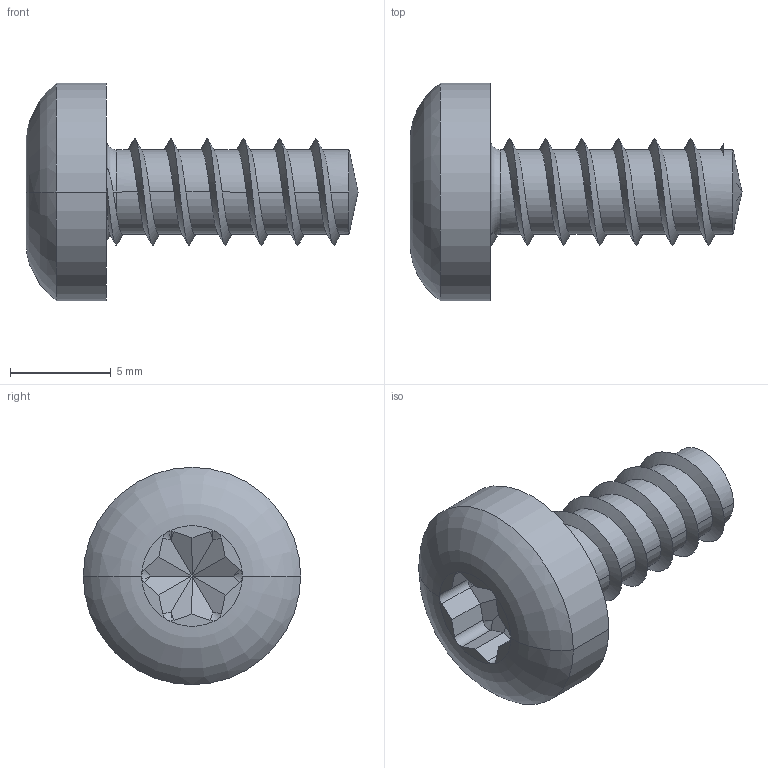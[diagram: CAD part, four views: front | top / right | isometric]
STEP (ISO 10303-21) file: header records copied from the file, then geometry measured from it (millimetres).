
FILE_DESCRIPTION (( 'STEP AP203' ), '1' );
FILE_NAME ('妈眚 襦祛磬疱玎栝 S 5.13 T.STEP', '2023-09-12T19:03:49', ( '' ), ( '' ), 'SwSTEP 2.0', 'SolidWorks 2022', '' );
FILE_SCHEMA (( 'CONFIG_CONTROL_DESIGN' ));
Length unit declared in the file: millimetre
Products named in the file (1): Винт самонарезающий S 5.13 T
Bounding box: 16.5 x 10.8 x 10.8 mm (x, y, z)
Volume: 477.6 mm3; surface area: 543.8 mm2
Topology: 1 solids, 1 shells, 74 faces, 182 edges, 101 vertices
Faces by surface type: plane 32, cylinder 24, cone 10, torus 6, bspline 2
Entity records: 3283 total; most frequent: CARTESIAN_POINT 1606, ORIENTED_EDGE 344, DIRECTION 330, EDGE_CURVE 172, AXIS2_PLACEMENT_3D 121, VERTEX_POINT 101, VECTOR 88, LINE 88
